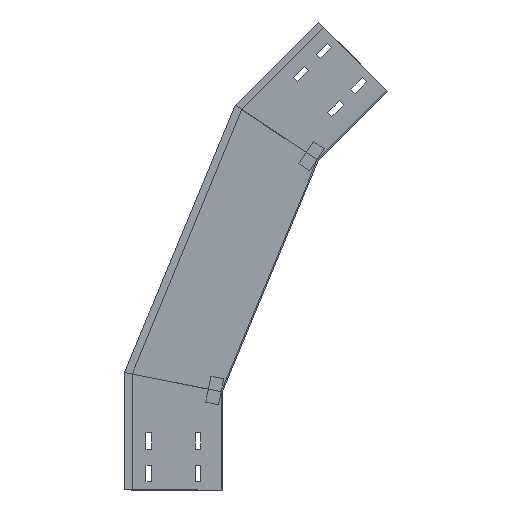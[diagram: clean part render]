
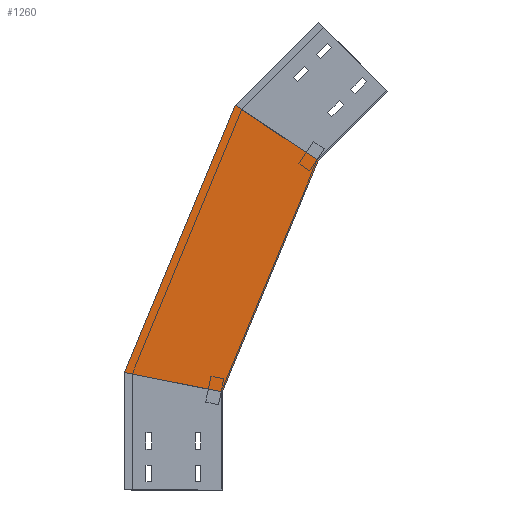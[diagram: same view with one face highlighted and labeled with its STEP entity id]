
A CAD part, left-side view. The second image highlights one B-rep face of the part: STEP entity #1260.
In plain terms, the highlighted planar face has unit normal (-1, 0, 0) as drawn and (1, 0, 0) by its records, which use the part's own axes.
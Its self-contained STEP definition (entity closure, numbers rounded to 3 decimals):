
#9 = ORIENTED_EDGE ( 'NONE', *, *, #1809, .T. ) ;
#94 = VERTEX_POINT ( 'NONE', #324 ) ;
#234 = VECTOR ( 'NONE', #1263, 1000. ) ;
#251 = VECTOR ( 'NONE', #1044, 1000. ) ;
#253 = ORIENTED_EDGE ( 'NONE', *, *, #430, .F. ) ;
#311 = CARTESIAN_POINT ( 'NONE',  ( 0., -19.404, 588.814 ) ) ;
#324 = CARTESIAN_POINT ( 'NONE',  ( 0., -146.568, 503.846 ) ) ;
#395 = AXIS2_PLACEMENT_3D ( 'NONE', #1865, #656, #1287 ) ;
#430 = EDGE_CURVE ( 'NONE', #1515, #1379, #657, .T. ) ;
#533 = DIRECTION ( 'NONE',  ( 0., -0.383, 0.924 ) ) ;
#633 = CARTESIAN_POINT ( 'NONE',  ( 0., -28.701, 144.291 ) ) ;
#656 = DIRECTION ( 'NONE',  ( 1., 0., 0. ) ) ;
#657 = LINE ( 'NONE', #633, #690 ) ;
#690 = VECTOR ( 'NONE', #999, 1000. ) ;
#741 = FACE_OUTER_BOUND ( 'NONE', #1111, .T. ) ;
#785 = CARTESIAN_POINT ( 'NONE',  ( 0., -214.035, 458.766 ) ) ;
#999 = DIRECTION ( 'NONE',  ( 0., -0.981, -0.195 ) ) ;
#1024 = VECTOR ( 'NONE', #533, 1000. ) ;
#1034 = CARTESIAN_POINT ( 'NONE',  ( 0., 0., 150. ) ) ;
#1044 = DIRECTION ( 'NONE',  ( 0., -0.383, 0.924 ) ) ;
#1111 = EDGE_LOOP ( 'NONE', ( #9, #1713, #1786, #253 ) ) ;
#1249 = PLANE ( 'NONE',  #395 ) ;
#1260 = ADVANCED_FACE ( 'NONE', ( #741 ), #1249, .T. ) ;
#1263 = DIRECTION ( 'NONE',  ( 0., -0.831, -0.556 ) ) ;
#1287 = DIRECTION ( 'NONE',  ( 0., 0., -1. ) ) ;
#1379 = VERTEX_POINT ( 'NONE', #1034 ) ;
#1515 = VERTEX_POINT ( 'NONE', #1718 ) ;
#1528 = EDGE_CURVE ( 'NONE', #1548, #94, #1706, .T. ) ;
#1548 = VERTEX_POINT ( 'NONE', #311 ) ;
#1632 = LINE ( 'NONE', #1942, #1024 ) ;
#1706 = LINE ( 'NONE', #785, #234 ) ;
#1713 = ORIENTED_EDGE ( 'NONE', *, *, #1528, .T. ) ;
#1718 = CARTESIAN_POINT ( 'NONE',  ( 0., 150., 179.837 ) ) ;
#1746 = EDGE_CURVE ( 'NONE', #1379, #94, #1632, .T. ) ;
#1786 = ORIENTED_EDGE ( 'NONE', *, *, #1746, .F. ) ;
#1809 = EDGE_CURVE ( 'NONE', #1515, #1548, #1983, .T. ) ;
#1834 = CARTESIAN_POINT ( 'NONE',  ( 0., 151.18, 176.988 ) ) ;
#1865 = CARTESIAN_POINT ( 'NONE',  ( 0., 12.598, 119.585 ) ) ;
#1942 = CARTESIAN_POINT ( 'NONE',  ( 0., 12.598, 119.585 ) ) ;
#1983 = LINE ( 'NONE', #1834, #251 ) ;
